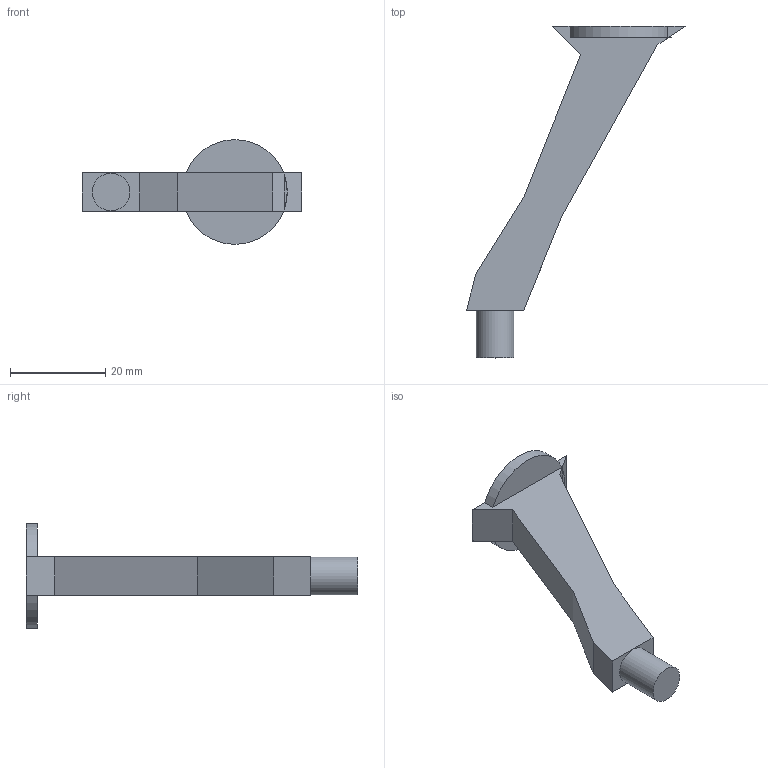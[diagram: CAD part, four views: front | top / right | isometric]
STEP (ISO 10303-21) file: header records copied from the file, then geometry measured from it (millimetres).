
FILE_DESCRIPTION(('Open CASCADE Model'),'2;1');
FILE_NAME('Open CASCADE Shape Model','2026-10-20T19:46:50',('Author'),( 'Open CASCADE'),'Open CASCADE STEP processor 8.0','build123d', 'Unknown');
FILE_SCHEMA(('AUTOMOTIVE_DESIGN { 1 0 10303 214 1 1 1 1 }'));
Length unit declared in the file: millimetre
Products named in the file (2): =>[0:1:1:2]; COMPOUND
Assembly tree (1 placements, depth 2):
  =>[0:1:1:2]
    COMPOUND
Bounding box: 46 x 69.7 x 22 mm (x, y, z)
Volume: 7242.1 mm3; surface area: 3675.1 mm2
Topology: 1 solids, 1 shells, 19 faces, 46 edges, 31 vertices
Faces by surface type: plane 15, cylinder 4
Full cylindrical faces by diameter (mm): 7.9 x1
Entity records: 1181 total; most frequent: CARTESIAN_POINT 226, DIRECTION 171, LINE 104, VECTOR 104, ORIENTED_EDGE 92, PCURVE 92, DEFINITIONAL_REPRESENTATION 92, EDGE_CURVE 46
